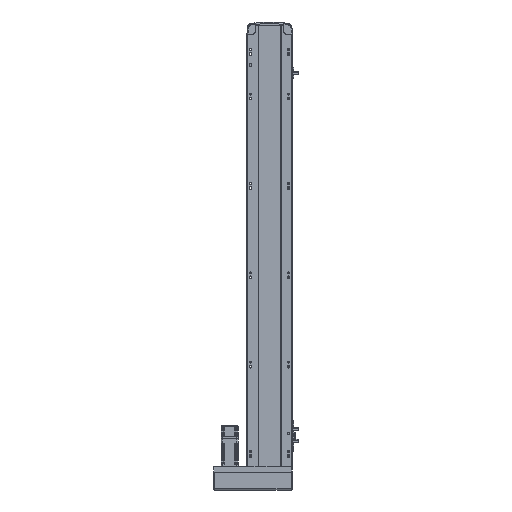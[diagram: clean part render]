
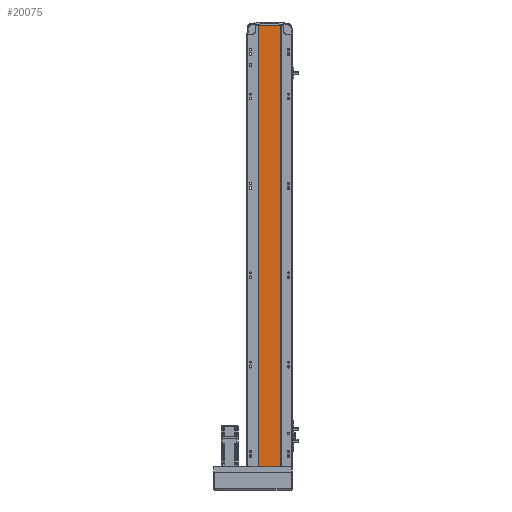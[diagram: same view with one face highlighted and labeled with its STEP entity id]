
A CAD part, front view. The second image highlights one B-rep face of the part: STEP entity #20075.
In plain terms, the highlighted planar face has unit normal (0, -1, 0).
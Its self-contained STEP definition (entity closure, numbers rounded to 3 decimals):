
#22 = ORIENTED_EDGE ( 'NONE', *, *, #29243, .T. ) ;
#139 = EDGE_CURVE ( 'NONE', #10982, #18565, #40333, .T. ) ;
#2275 = EDGE_LOOP ( 'NONE', ( #22, #55339, #14599, #45915 ) ) ;
#2742 = PLANE ( 'NONE',  #31542 ) ;
#5023 = LINE ( 'NONE', #46599, #36387 ) ;
#10982 = VERTEX_POINT ( 'NONE', #23802 ) ;
#11874 = DIRECTION ( 'NONE',  ( 0., 1., 0. ) ) ;
#12744 = CARTESIAN_POINT ( 'NONE',  ( 24.5, 2., 987. ) ) ;
#14599 = ORIENTED_EDGE ( 'NONE', *, *, #30538, .F. ) ;
#14823 = LINE ( 'NONE', #12744, #16250 ) ;
#14933 = DIRECTION ( 'NONE',  ( 1., 0., 0. ) ) ;
#16250 = VECTOR ( 'NONE', #26117, 1000. ) ;
#17780 = CARTESIAN_POINT ( 'NONE',  ( -24.5, 2., 987. ) ) ;
#17970 = DIRECTION ( 'NONE',  ( 0., 0., -1. ) ) ;
#18565 = VERTEX_POINT ( 'NONE', #53382 ) ;
#19678 = LINE ( 'NONE', #55151, #34699 ) ;
#19903 = VERTEX_POINT ( 'NONE', #44444 ) ;
#20075 = ADVANCED_FACE ( 'NONE', ( #50172 ), #2742, .F. ) ;
#23802 = CARTESIAN_POINT ( 'NONE',  ( -24.5, 2., 987. ) ) ;
#26117 = DIRECTION ( 'NONE',  ( 0., 0., -1. ) ) ;
#28824 = DIRECTION ( 'NONE',  ( 0., 0., 1. ) ) ;
#29243 = EDGE_CURVE ( 'NONE', #18565, #19903, #19678, .T. ) ;
#30538 = EDGE_CURVE ( 'NONE', #10982, #33885, #5023, .T. ) ;
#31542 = AXIS2_PLACEMENT_3D ( 'NONE', #33241, #11874, #28824 ) ;
#32450 = DIRECTION ( 'NONE',  ( 1., 0., 0. ) ) ;
#33241 = CARTESIAN_POINT ( 'NONE',  ( 0., 2., 987. ) ) ;
#33885 = VERTEX_POINT ( 'NONE', #55289 ) ;
#34699 = VECTOR ( 'NONE', #32450, 1000. ) ;
#36387 = VECTOR ( 'NONE', #14933, 1000. ) ;
#38792 = EDGE_CURVE ( 'NONE', #33885, #19903, #14823, .T. ) ;
#40333 = LINE ( 'NONE', #17780, #50287 ) ;
#44444 = CARTESIAN_POINT ( 'NONE',  ( 24.5, 2., 0. ) ) ;
#45915 = ORIENTED_EDGE ( 'NONE', *, *, #139, .T. ) ;
#46599 = CARTESIAN_POINT ( 'NONE',  ( -24.5, 2., 987. ) ) ;
#50172 = FACE_OUTER_BOUND ( 'NONE', #2275, .T. ) ;
#50287 = VECTOR ( 'NONE', #17970, 1000. ) ;
#53382 = CARTESIAN_POINT ( 'NONE',  ( -24.5, 2., 0. ) ) ;
#55151 = CARTESIAN_POINT ( 'NONE',  ( 0., 2., 0. ) ) ;
#55289 = CARTESIAN_POINT ( 'NONE',  ( 24.5, 2., 987. ) ) ;
#55339 = ORIENTED_EDGE ( 'NONE', *, *, #38792, .F. ) ;
